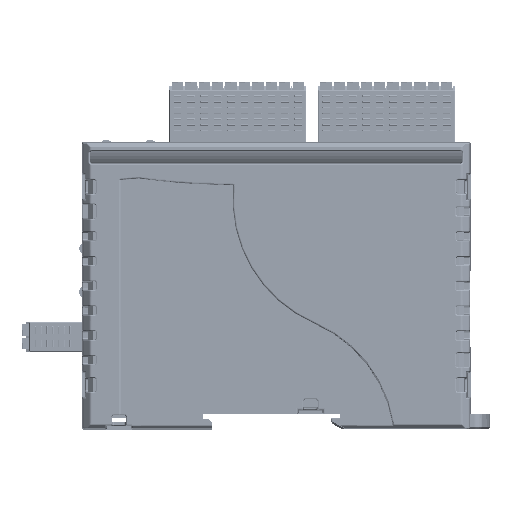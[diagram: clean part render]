
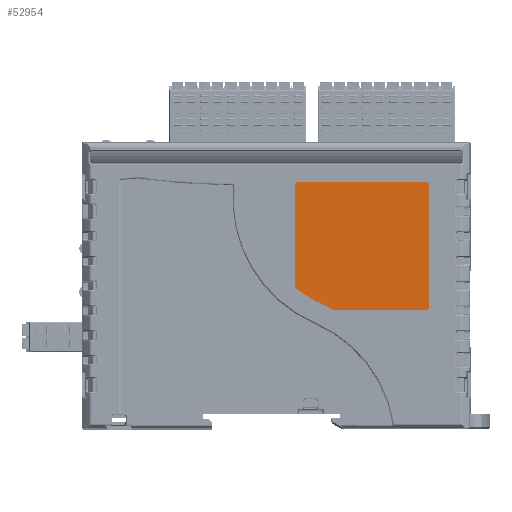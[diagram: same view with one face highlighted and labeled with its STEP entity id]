
A CAD part, front view. The second image highlights one B-rep face of the part: STEP entity #52954.
In plain terms, the highlighted planar face has unit normal (0, -1, 0).
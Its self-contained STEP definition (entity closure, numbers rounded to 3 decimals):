
#20588=DIRECTION('',(-1.,0.,0.));
#20589=VECTOR('',#20588,33.354);
#20590=CARTESIAN_POINT('',(39.177,-16.2,27.174));
#20591=LINE('',#20590,#20589);
#20609=DIRECTION('',(0.,0.,1.));
#20610=VECTOR('',#20609,31.83);
#20611=CARTESIAN_POINT('',(39.974,-16.2,-5.453));
#20612=LINE('',#20611,#20610);
#20630=DIRECTION('',(1.,0.,0.));
#20631=VECTOR('',#20630,23.973);
#20632=CARTESIAN_POINT('',(15.204,-16.2,-6.25));
#20633=LINE('',#20632,#20631);
#20672=DIRECTION('',(0.,0.,-1.));
#20673=VECTOR('',#20672,26.541);
#20674=CARTESIAN_POINT('',(5.026,-16.2,26.377));
#20675=LINE('',#20674,#20673);
#20679=CARTESIAN_POINT('',(5.026,-16.2,26.377));
#20680=CARTESIAN_POINT('',(5.026,-16.2,26.597));
#20681=CARTESIAN_POINT('',(5.104,-16.2,26.785));
#20682=CARTESIAN_POINT('',(5.259,-16.2,26.941));
#20687=CARTESIAN_POINT('',(5.259,-16.2,26.941));
#20688=CARTESIAN_POINT('',(5.415,-16.2,27.096));
#20689=CARTESIAN_POINT('',(5.603,-16.2,27.174));
#20690=CARTESIAN_POINT('',(5.823,-16.2,27.174));
#20695=CARTESIAN_POINT('',(39.177,-16.2,27.174));
#20696=CARTESIAN_POINT('',(39.397,-16.2,27.174));
#20697=CARTESIAN_POINT('',(39.585,-16.2,27.096));
#20698=CARTESIAN_POINT('',(39.741,-16.2,26.941));
#20703=CARTESIAN_POINT('',(39.741,-16.2,26.941));
#20704=CARTESIAN_POINT('',(39.896,-16.2,26.785));
#20705=CARTESIAN_POINT('',(39.974,-16.2,26.597));
#20706=CARTESIAN_POINT('',(39.974,-16.2,26.377));
#20711=CARTESIAN_POINT('',(39.974,-16.2,-5.453));
#20712=CARTESIAN_POINT('',(39.974,-16.2,-5.673));
#20713=CARTESIAN_POINT('',(39.896,-16.2,-5.861));
#20714=CARTESIAN_POINT('',(39.741,-16.2,-6.017));
#20719=CARTESIAN_POINT('',(39.741,-16.2,-6.017));
#20720=CARTESIAN_POINT('',(39.585,-16.2,-6.172));
#20721=CARTESIAN_POINT('',(39.397,-16.2,-6.25));
#20722=CARTESIAN_POINT('',(39.177,-16.2,-6.25));
#20727=CARTESIAN_POINT('',(15.204,-16.2,-5.453));
#20728=DIRECTION('',(0.,1.,0.));
#20729=DIRECTION('',(0.,0.,-1.));
#20730=AXIS2_PLACEMENT_3D('',#20727,#20728,#20729);
#20735=CARTESIAN_POINT('',(-3.758,-16.2,-41.636));
#20736=DIRECTION('',(0.,-1.,0.));
#20737=DIRECTION('',(0.464,0.,0.886));
#20738=AXIS2_PLACEMENT_3D('',#20735,#20736,#20737);
#20743=CARTESIAN_POINT('',(24.023,-16.2,22.67));
#20744=DIRECTION('',(0.,1.,0.));
#20745=DIRECTION('',(-0.397,0.,-0.918));
#20746=AXIS2_PLACEMENT_3D('',#20743,#20744,#20745);
#20751=CARTESIAN_POINT('',(5.823,-16.2,-0.164));
#20752=DIRECTION('',(0.,1.,0.));
#20753=DIRECTION('',(-0.623,0.,-0.782));
#20754=AXIS2_PLACEMENT_3D('',#20751,#20752,#20753);
#22360=CARTESIAN_POINT('',(5.823,-16.2,27.174));
#22361=VERTEX_POINT('',#22360);
#22362=VERTEX_POINT('',#20687);
#22363=VERTEX_POINT('',#20679);
#22364=CARTESIAN_POINT('',(39.177,-16.2,27.174));
#22365=VERTEX_POINT('',#22364);
#22366=CARTESIAN_POINT('',(39.974,-16.2,26.377));
#22367=VERTEX_POINT('',#22366);
#22368=VERTEX_POINT('',#20703);
#22369=CARTESIAN_POINT('',(39.974,-16.2,-5.453));
#22370=VERTEX_POINT('',#22369);
#22371=CARTESIAN_POINT('',(39.177,-16.2,-6.25));
#22372=VERTEX_POINT('',#22371);
#22373=VERTEX_POINT('',#20719);
#22374=CARTESIAN_POINT('',(15.204,-16.2,-6.25));
#22375=VERTEX_POINT('',#22374);
#22376=CARTESIAN_POINT('',(14.834,-16.2,-6.159));
#22377=VERTEX_POINT('',#22376);
#22378=CARTESIAN_POINT('',(12.124,-16.2,-4.866));
#22379=VERTEX_POINT('',#22378);
#22380=CARTESIAN_POINT('',(5.326,-16.2,-0.787));
#22381=VERTEX_POINT('',#22380);
#22382=CARTESIAN_POINT('',(5.026,-16.2,-0.164));
#22383=VERTEX_POINT('',#22382);
#52933=CARTESIAN_POINT('',(0.,-16.2,0.));
#52934=DIRECTION('',(0.,-1.,0.));
#52935=DIRECTION('',(0.,0.,1.));
#52936=AXIS2_PLACEMENT_3D('',#52933,#52934,#52935);
#52937=PLANE('',#52936);
#52938=ORIENTED_EDGE('',*,*,#52692,.T.);
#52939=ORIENTED_EDGE('',*,*,#52690,.T.);
#52940=ORIENTED_EDGE('',*,*,#52714,.F.);
#52941=ORIENTED_EDGE('',*,*,#52744,.T.);
#52942=ORIENTED_EDGE('',*,*,#52742,.T.);
#52943=ORIENTED_EDGE('',*,*,#52765,.F.);
#52944=ORIENTED_EDGE('',*,*,#52795,.T.);
#52945=ORIENTED_EDGE('',*,*,#52793,.T.);
#52946=ORIENTED_EDGE('',*,*,#52816,.F.);
#52947=ORIENTED_EDGE('',*,*,#52837,.T.);
#52948=ORIENTED_EDGE('',*,*,#52858,.T.);
#52949=ORIENTED_EDGE('',*,*,#52879,.T.);
#52950=ORIENTED_EDGE('',*,*,#52900,.T.);
#52951=ORIENTED_EDGE('',*,*,#52920,.F.);
#52952=EDGE_LOOP('',(#52938,#52939,#52940,#52941,#52942,#52943,#52944,#52945,
#52946,#52947,#52948,#52949,#52950,#52951));
#52953=FACE_OUTER_BOUND('',#52952,.F.);
#20683=B_SPLINE_CURVE_WITH_KNOTS('',3,(#20679,#20680,#20681,#20682),
.UNSPECIFIED.,.F.,.F.,(4,4),(0.,1.),.UNSPECIFIED.);
#20691=B_SPLINE_CURVE_WITH_KNOTS('',3,(#20687,#20688,#20689,#20690),
.UNSPECIFIED.,.F.,.F.,(4,4),(0.,1.),.UNSPECIFIED.);
#20699=B_SPLINE_CURVE_WITH_KNOTS('',3,(#20695,#20696,#20697,#20698),
.UNSPECIFIED.,.F.,.F.,(4,4),(0.,1.),.UNSPECIFIED.);
#20707=B_SPLINE_CURVE_WITH_KNOTS('',3,(#20703,#20704,#20705,#20706),
.UNSPECIFIED.,.F.,.F.,(4,4),(0.,1.),.UNSPECIFIED.);
#20715=B_SPLINE_CURVE_WITH_KNOTS('',3,(#20711,#20712,#20713,#20714),
.UNSPECIFIED.,.F.,.F.,(4,4),(0.,1.),.UNSPECIFIED.);
#20723=B_SPLINE_CURVE_WITH_KNOTS('',3,(#20719,#20720,#20721,#20722),
.UNSPECIFIED.,.F.,.F.,(4,4),(0.,1.),.UNSPECIFIED.);
#20731=CIRCLE('',#20730,0.796);
#20739=CIRCLE('',#20738,40.054);
#20747=CIRCLE('',#20746,29.997);
#20755=CIRCLE('',#20754,0.797);
#52690=EDGE_CURVE('',#22362,#22361,#20691,.T.);
#52692=EDGE_CURVE('',#22363,#22362,#20683,.T.);
#52714=EDGE_CURVE('',#22365,#22361,#20591,.T.);
#52742=EDGE_CURVE('',#22368,#22367,#20707,.T.);
#52744=EDGE_CURVE('',#22365,#22368,#20699,.T.);
#52765=EDGE_CURVE('',#22370,#22367,#20612,.T.);
#52793=EDGE_CURVE('',#22373,#22372,#20723,.T.);
#52795=EDGE_CURVE('',#22370,#22373,#20715,.T.);
#52816=EDGE_CURVE('',#22375,#22372,#20633,.T.);
#52837=EDGE_CURVE('',#22375,#22377,#20731,.T.);
#52858=EDGE_CURVE('',#22377,#22379,#20739,.T.);
#52879=EDGE_CURVE('',#22379,#22381,#20747,.T.);
#52900=EDGE_CURVE('',#22381,#22383,#20755,.T.);
#52920=EDGE_CURVE('',#22363,#22383,#20675,.T.);
#52954=ADVANCED_FACE('',(#52953),#52937,.T.);
